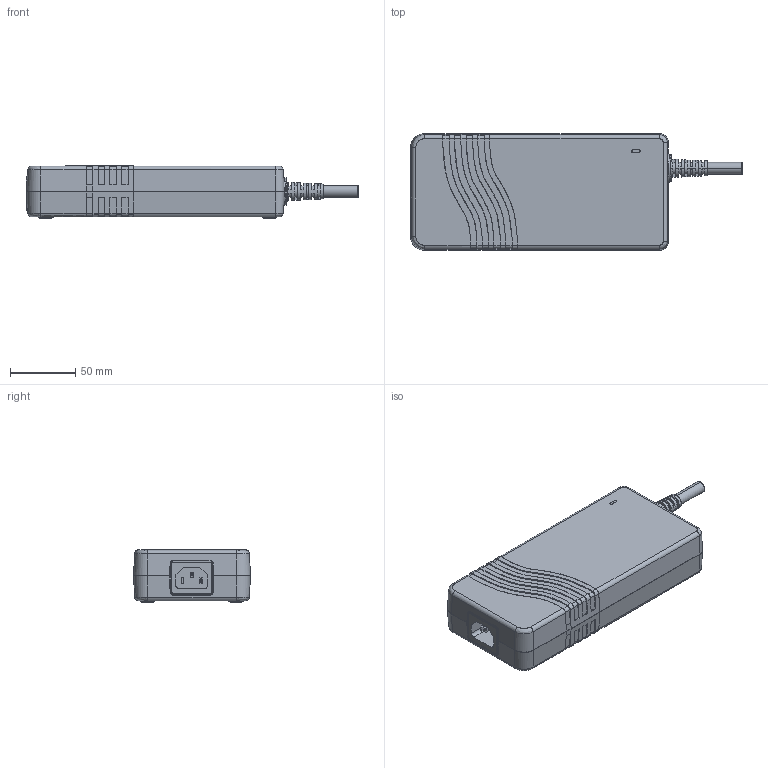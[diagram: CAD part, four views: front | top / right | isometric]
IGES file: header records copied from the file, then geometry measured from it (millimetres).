
Start section: SolidWorks IGES file using analytic representation for surfaces
Global section: file name: C:\Users\ksmith\OneDrive - XP Power\Desktop\VES300\New\VES300.IGS; native system: SolidWorks 2022; preprocessor: SolidWorks 2022; author: ksmith; date: 231206.081048; units: inch
Bounding box: 255.18 x 89.91 x 40.2 mm (x, y, z)
Surface area: 127724.5 mm2 (no closed solid volume)
Topology: 0 solids, 0 shells, 1090 faces, 12140 edges, 12120 vertices
Faces by surface type: bspline 733, revolution 357
